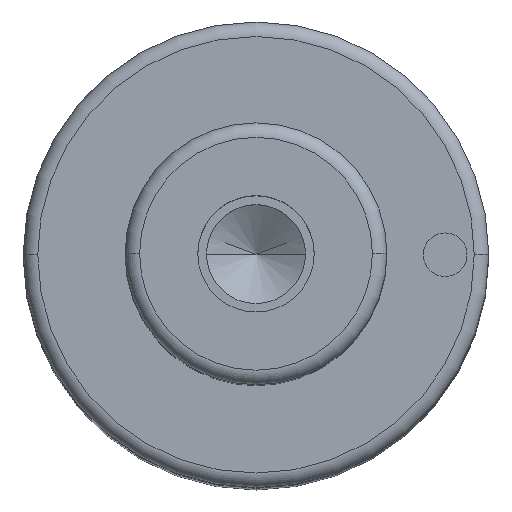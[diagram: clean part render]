
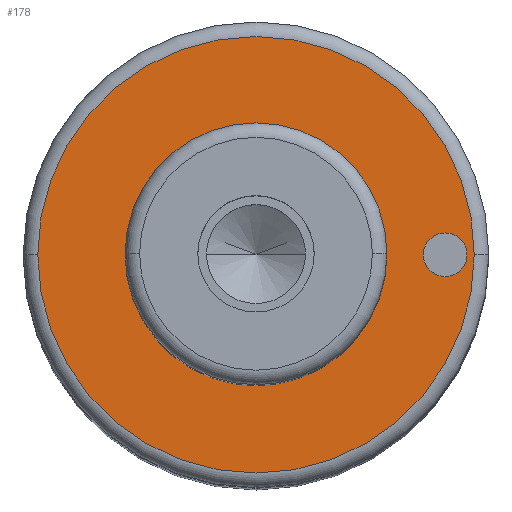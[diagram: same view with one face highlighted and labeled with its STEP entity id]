
A CAD part, top view. The second image highlights one B-rep face of the part: STEP entity #178.
In plain terms, the highlighted planar face has unit normal (0, 0, 1).
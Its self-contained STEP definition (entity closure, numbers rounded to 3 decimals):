
#105=PLANE('',#866);
#115=FACE_BOUND('',#283,.T.);
#116=FACE_BOUND('',#284,.T.);
#117=FACE_BOUND('',#285,.T.);
#178=ADVANCED_FACE('',(#115,#116,#117),#105,.T.);
#283=EDGE_LOOP('',(#473,#474));
#284=EDGE_LOOP('',(#475,#476));
#285=EDGE_LOOP('',(#477,#478));
#333=CIRCLE('',#834,9.);
#334=CIRCLE('',#836,9.);
#338=CIRCLE('',#841,15.);
#339=CIRCLE('',#843,15.);
#351=CIRCLE('',#864,1.5);
#352=CIRCLE('',#865,1.5);
#473=ORIENTED_EDGE('',*,*,#666,.F.);
#474=ORIENTED_EDGE('',*,*,#667,.F.);
#475=ORIENTED_EDGE('',*,*,#685,.F.);
#476=ORIENTED_EDGE('',*,*,#686,.F.);
#477=ORIENTED_EDGE('',*,*,#662,.T.);
#478=ORIENTED_EDGE('',*,*,#660,.T.);
#590=VERTEX_POINT('',#1233);
#591=VERTEX_POINT('',#1235);
#592=VERTEX_POINT('',#1241);
#595=VERTEX_POINT('',#1246);
#604=VERTEX_POINT('',#1285);
#605=VERTEX_POINT('',#1286);
#660=EDGE_CURVE('',#591,#590,#333,.T.);
#662=EDGE_CURVE('',#590,#591,#334,.T.);
#666=EDGE_CURVE('',#595,#592,#338,.T.);
#667=EDGE_CURVE('',#592,#595,#339,.T.);
#685=EDGE_CURVE('',#604,#605,#351,.T.);
#686=EDGE_CURVE('',#605,#604,#352,.T.);
#834=AXIS2_PLACEMENT_3D('',#1234,#985,#986);
#836=AXIS2_PLACEMENT_3D('',#1238,#990,#991);
#841=AXIS2_PLACEMENT_3D('',#1247,#1000,#1001);
#843=AXIS2_PLACEMENT_3D('',#1249,#1004,#1005);
#864=AXIS2_PLACEMENT_3D('',#1284,#1052,#1053);
#865=AXIS2_PLACEMENT_3D('',#1287,#1054,#1055);
#866=AXIS2_PLACEMENT_3D('',#1288,#1056,#1057);
#985=DIRECTION('',(0.,0.,-1.));
#986=DIRECTION('',(0.,1.,0.));
#990=DIRECTION('',(0.,0.,-1.));
#991=DIRECTION('',(0.,-1.,0.));
#1000=DIRECTION('',(0.,0.,-1.));
#1001=DIRECTION('',(0.,1.,0.));
#1004=DIRECTION('',(0.,0.,-1.));
#1005=DIRECTION('',(0.,-1.,0.));
#1052=DIRECTION('',(0.,0.,1.));
#1053=DIRECTION('',(0.,1.,0.));
#1054=DIRECTION('',(0.,0.,1.));
#1055=DIRECTION('',(0.,-1.,0.));
#1056=DIRECTION('',(0.,0.,1.));
#1057=DIRECTION('',(0.,-1.,0.));
#1233=CARTESIAN_POINT('',(-9.,0.,95.));
#1234=CARTESIAN_POINT('',(0.,0.,95.));
#1235=CARTESIAN_POINT('',(9.,0.,95.));
#1238=CARTESIAN_POINT('',(0.,0.,95.));
#1241=CARTESIAN_POINT('',(-15.,0.,95.));
#1246=CARTESIAN_POINT('',(15.,0.,95.));
#1247=CARTESIAN_POINT('',(0.,0.,95.));
#1249=CARTESIAN_POINT('',(0.,0.,95.));
#1284=CARTESIAN_POINT('',(13.,0.,95.));
#1285=CARTESIAN_POINT('',(11.5,0.,95.));
#1286=CARTESIAN_POINT('',(14.5,0.,95.));
#1287=CARTESIAN_POINT('',(13.,0.,95.));
#1288=CARTESIAN_POINT('',(0.,0.,95.));
